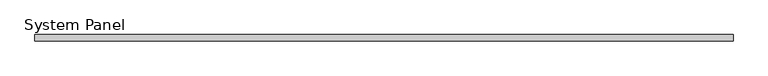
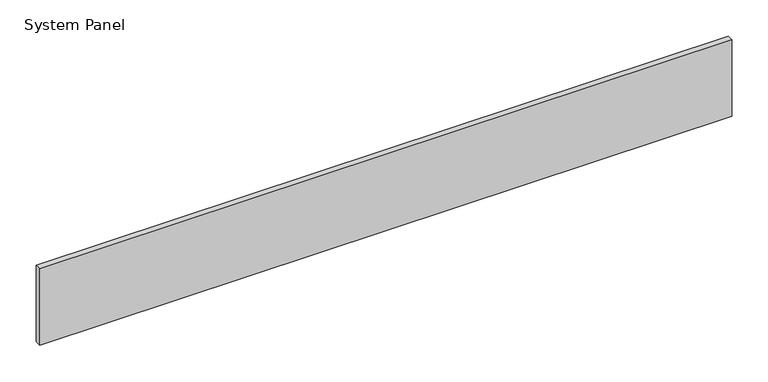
"""IFC4 building model written with IfcOpenShell, lengths in millimetres: plate geometry, System Panel : VACÍO."""

from ifc_helpers import new_model, si_unit, origin, origin_with_axes, place, context, project, spatial, polyline, outline, extrude, source, transform, mapped, element, save


def system_panel_4f7478dd(model_context):
    return source(origin(), model_context, "Body", "SweptSolid", [
        extrude(outline(polyline([(553.3436275, -5.0), (-553.3436275, -5.0), (-553.3436275, 5.0), (553.3436275, 5.0), (553.3436275, -5.0)])), origin_with_axes(), (0.0, 0.0, 1.0), 129.4545455),
    ])


if __name__ == "__main__":
    model = new_model("IFC4")
    model_context = context("Model", 3, world=origin())
    ifc_project = project(units=[si_unit("LENGTHUNIT", "METRE", prefix="MILLI")], contexts=[model_context])
    site = spatial("IfcSite", under=ifc_project)
    building = spatial("IfcBuilding", under=site)
    placement = place(None, origin())
    system_panel_shape = system_panel_4f7478dd(model_context)
    element("IfcPlate", 1, ObjectType="System Panel : VACÍO", at=placement, inside=building, context=model_context, shape_type="MappedRepresentation", body=[
        mapped(system_panel_shape, transform((0.0, 0.0, 0.0), x_axis=(1.0, 0.0, 0.0), y_axis=(0.0, 1.0, 0.0), z_axis=(0.0, 0.0, 1.0))),
    ])
    save(model, "model.ifc")
